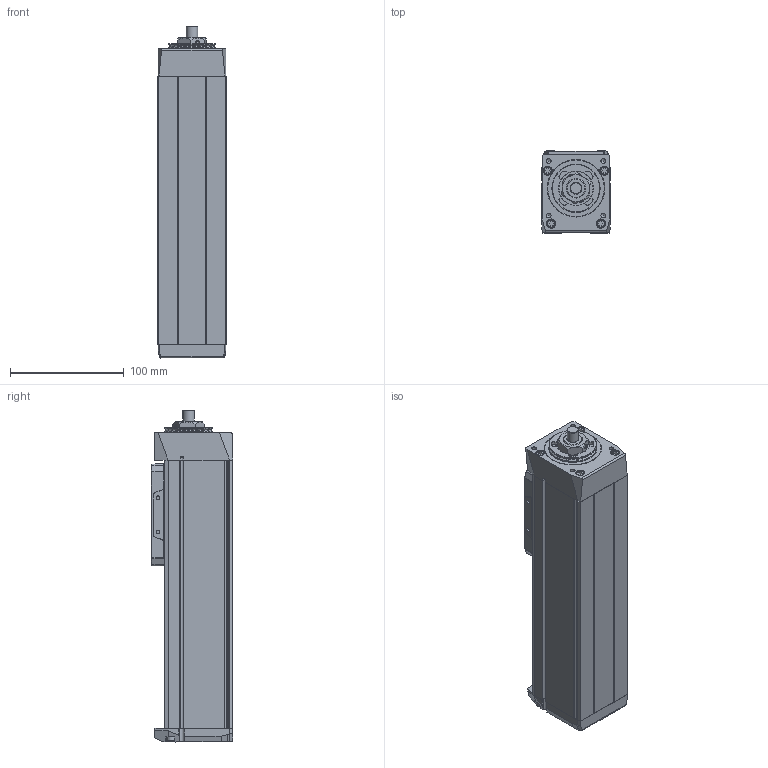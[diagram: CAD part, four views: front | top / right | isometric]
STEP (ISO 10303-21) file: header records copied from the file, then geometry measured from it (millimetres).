
FILE_DESCRIPTION(/* description */ ('STEP AP214'),/* implementation_level */ '2;1');
FILE_NAME(/* name */ 'MGBS 60 1210 100(0)',/* time_stamp */ '2023-04-17T13:14:39+02:00',/* author */ ('License CC BY-ND 4.0'),/* organization */ ('CADENAS'),/* preprocessor_version */ 'ST-DEVELOPER v19.3',/* originating_system */ 'PARTsolutions',/* authorisation */ ' ');
FILE_SCHEMA (('AUTOMOTIVE_DESIGN {1 0 10303 214 3 1 1}'));
Length unit declared in the file: millimetre
Products named in the file (6): MGBS 60 1210 100(0); MGBS 60 100_protection_strip; MGBS 60_carriage; MGBS 60_end_block; MGBS 60 100_profile; MGBS 60_drive_block
Assembly tree (5 placements, depth 2):
  MGBS 60 1210 100(0)
    MGBS 60 100_protection_strip
    MGBS 60_carriage
    MGBS 60_end_block
    MGBS 60 100_profile
    MGBS 60_drive_block
Bounding box: 60 x 72 x 292 mm (x, y, z)
Volume: 1018183.6 mm3; surface area: 145518.8 mm2
Topology: 5 solids, 5 shells, 694 faces, 1756 edges, 1135 vertices
Faces by surface type: plane 366, cylinder 144, cone 97, bspline 62, torus 23, sphere 2
Full cylindrical faces by diameter (mm): 2.459 x2, 2.46 x2, 3.242 x4, 4 x14, 4.134 x8, 4.8 x2, 5 x2, 5.5 x4, 7 x8, 7.6 x4, 8 x2, 10 x1, 11 x3, 23.8 x1, 30 x1, 42 x2, 50.2 x1
Entity records: 24817 total; most frequent: CARTESIAN_POINT 4104, DIRECTION 3372, ORIENTED_EDGE 3194, EDGE_CURVE 1597, AXIS2_PLACEMENT_3D 1197, VERTEX_POINT 1113, LINE 978, VECTOR 978
